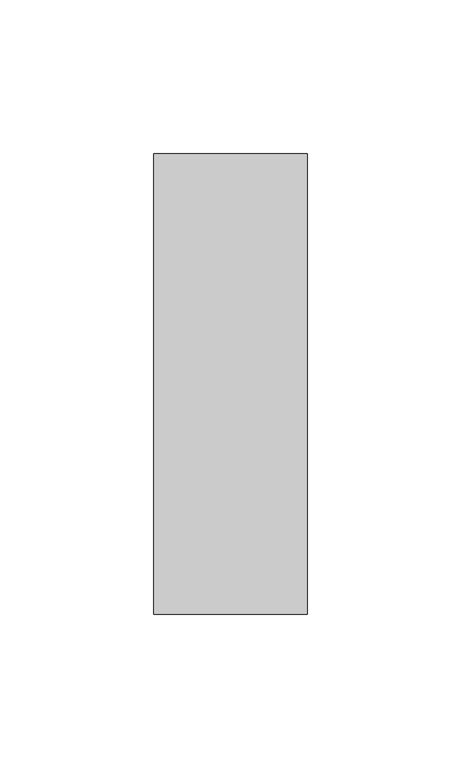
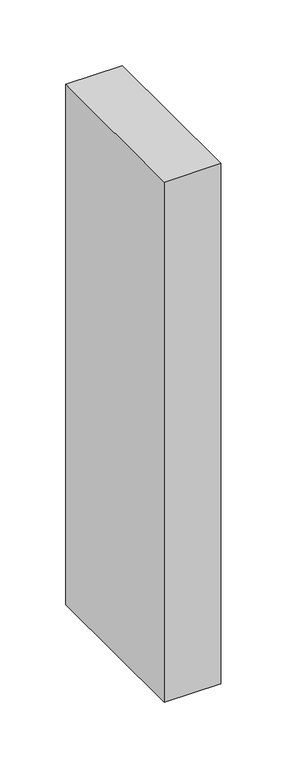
"""IFC4 building model written with IfcOpenShell, lengths in millimetres: member geometry, Прямоугольный импост : 50 x 150 мм."""

from ifc_helpers import new_model, si_unit, frame, origin, place, context, project, spatial, polyline, outline, extrude, source, transform, mapped, element, save


def member_6e0244d8(model_context):
    return source(origin(), model_context, "Body", "SweptSolid", [
        extrude(outline(polyline([(0.0, 75.0), (0.0, -75.0), (-50.0, -75.0), (-50.0, 75.0), (0.0, 75.0)])), frame((0.0, 0.0, -483.6594275), z_axis=(0.0, 0.0, 1.0), x_axis=(1.0, 0.0, 0.0)), (0.0, 0.0, 1.0), 483.6594275),
    ])


if __name__ == "__main__":
    model = new_model("IFC4")
    model_context = context("Model", 3, world=origin())
    ifc_project = project(units=[si_unit("LENGTHUNIT", "METRE", prefix="MILLI")], contexts=[model_context])
    site = spatial("IfcSite", under=ifc_project)
    building = spatial("IfcBuilding", under=site)
    placement = place(None, origin())
    member_shape = member_6e0244d8(model_context)
    element("IfcMember", 1, ObjectType="Прямоугольный импост : 50 x 150 мм", at=placement, inside=building, context=model_context, shape_type="MappedRepresentation", body=[
        mapped(member_shape, transform((0.0, 0.0, 0.0), x_axis=(1.0, 0.0, 0.0), y_axis=(0.0, 1.0, 0.0), z_axis=(0.0, 0.0, 1.0))),
    ])
    save(model, "model.ifc")
